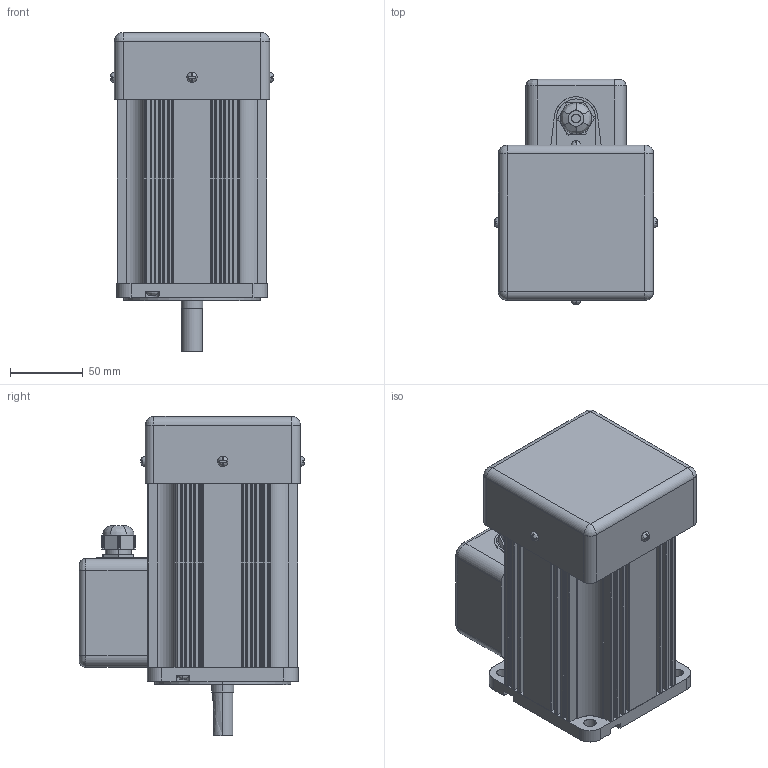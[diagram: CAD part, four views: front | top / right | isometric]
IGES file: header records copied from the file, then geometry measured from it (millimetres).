
Start section: SolidWorks IGES file using analytic representation for surfaces
Global section: file name: C:\Documents and Settings\user\官帕 拳搁\2015 墨呕肺弊 档搁荐沥\权其捞瘤 档搁\1. INDUCTION\104\250W\(1-279) 10IDKE-250F-T.IGS; native system: SolidWorks 2007; preprocessor: SolidWorks 2007; author: user; date: 150323.120115; units: millimetre
Bounding box: 112.99 x 155.49 x 220 mm (x, y, z)
Surface area: 189627.7 mm2 (no closed solid volume)
Topology: 0 solids, 0 shells, 513 faces, 6505 edges, 6497 vertices
Faces by surface type: bspline 305, revolution 208
